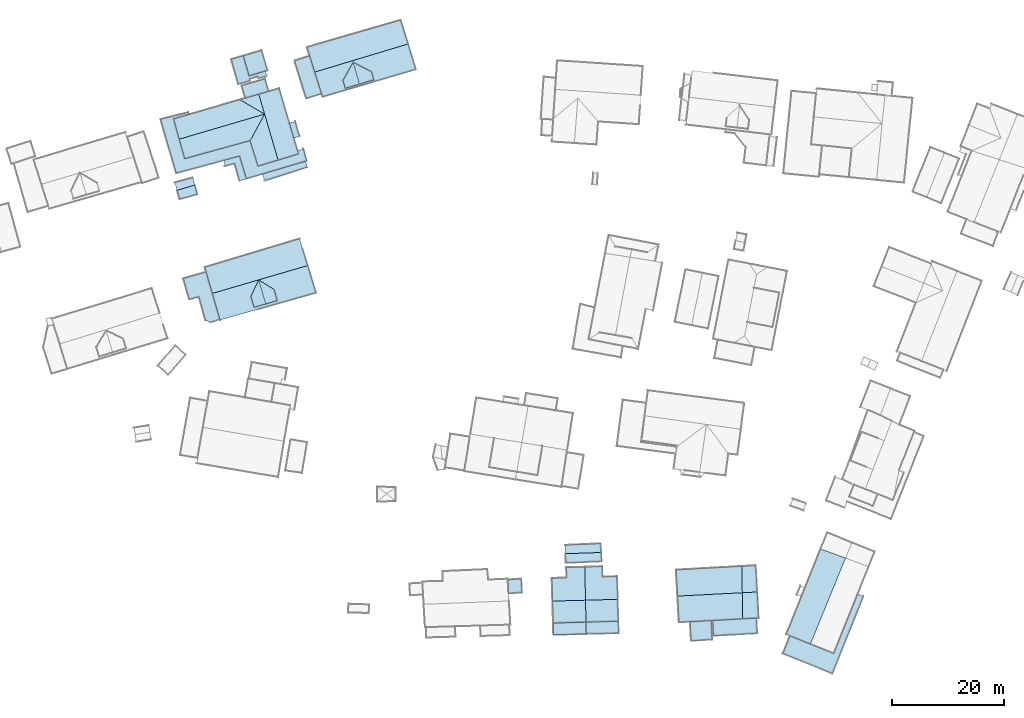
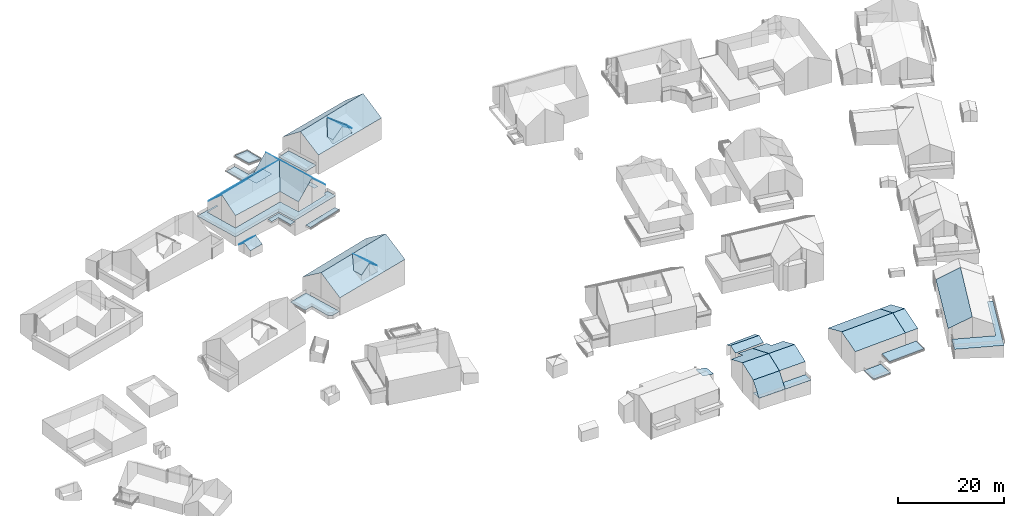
# Not in any storey, part 53 of 57: 86 roofs.
"""IFC4 building model written with IfcOpenShell, lengths in metres."""

from ifc_helpers import new_model, entity, si_unit, converted_unit, frame, origin, place, context, subcontext, project, spatial, face_set, surface_model, element, save


model = new_model("IFC4")

# Units and contexts
model_context = context("Model", 3, precision=1e-05, world=origin())
body_context = subcontext(model_context, "Body", "Model", "MODEL_VIEW")
ifc_project = project(units=[converted_unit("PLANEANGLEUNIT", "DEGREE", entity("IfcRatioMeasure", 0.0174532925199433), si_unit("PLANEANGLEUNIT", "RADIAN"), dimensions=[0, 0, 0, 0, 0, 0, 0]), si_unit("AREAUNIT", "SQUARE_METRE"), si_unit("LENGTHUNIT", "METRE")], contexts=[model_context])

# Site, building
site_placement = place(None, origin())
site = spatial("IfcSite", under=ifc_project, at=site_placement, Name="_site")
building_1_placement = place(site_placement, origin())
building_1 = spatial("IfcBuilding", under=site, at=building_1_placement, Name="_building")

# Roofs
roof_1_placement = place(building_1_placement, origin())
element("IfcRoof", 1, at=roof_1_placement, inside=building_1, Name="Roof", PredefinedType="NOTDEFINED", context=body_context, shape_type="SurfaceModel", body=[
    surface_model("IfcFaceBasedSurfaceModel", [(217.513, 63.715, 111.83), (217.379, 69.629, 109.47), (214.115, 69.536, 109.47), (214.162, 67.713, 110.22), (211.529, 67.635, 110.18), (211.654, 63.559, 111.83)], [face_set([[[0, 1, 2, 3, 4, 5]]])]),
])
roof_2_placement = place(building_1_placement, origin())
element("IfcRoof", 2, at=roof_2_placement, inside=building_1, Name="Roof", PredefinedType="NOTDEFINED", context=body_context, shape_type="SurfaceModel", body=[
    surface_model("IfcFaceBasedSurfaceModel", [(211.654, 63.559, 111.83), (211.762, 59.644, 110.18), (217.602, 59.81, 110.18), (217.513, 63.715, 111.83)], [face_set([[[0, 1, 2, 3]]])]),
])
roof_3_placement = place(building_1_placement, origin())
element("IfcRoof", 3, at=roof_3_placement, inside=building_1, Name="Roof", PredefinedType="NOTDEFINED", context=body_context, shape_type="SurfaceModel", body=[
    surface_model("IfcFaceBasedSurfaceModel", [(217.513, 63.715, 111.83), (217.379, 69.629, 109.47), (214.115, 69.536, 109.47), (214.162, 67.713, 110.22), (211.529, 67.635, 110.18), (211.654, 63.559, 111.83)], [face_set([[[0, 1, 2, 3, 4, 5]]])]),
])
roof_4_placement = place(building_1_placement, origin())
element("IfcRoof", 4, at=roof_4_placement, inside=building_1, Name="Roof", PredefinedType="NOTDEFINED", context=body_context, shape_type="SurfaceModel", body=[
    surface_model("IfcFaceBasedSurfaceModel", [(211.654, 63.559, 111.83), (211.762, 59.644, 110.18), (217.602, 59.81, 110.18), (217.513, 63.715, 111.83)], [face_set([[[0, 1, 2, 3]]])]),
])
roof_5_placement = place(building_1_placement, origin())
element("IfcRoof", 5, at=roof_5_placement, inside=building_1, Name="Roof", PredefinedType="NOTDEFINED", context=body_context, shape_type="SurfaceModel", body=[
    surface_model("IfcFaceBasedSurfaceModel", [(211.762, 59.644, 110.18), (211.823, 57.552, 107.186), (217.65, 57.706, 107.17), (217.602, 59.81, 110.18)], [face_set([[[0, 1, 2, 3]]])]),
])
for number, where, name in (
    (6, (0.0, 0.0, 0.0), "Roof"),
    (7, (0.0, 0.0, 0.0), "Roof"),
):
    element("IfcRoof", number, at=place(building_1_placement, frame(where)), inside=building_1, Name=name, PredefinedType="NOTDEFINED", context=body_context, shape_type="SurfaceModel", body=[
        surface_model("IfcFaceBasedSurfaceModel", [(217.65, 57.706, 107.22), (217.602, 59.81, 107.22), (211.762, 59.644, 107.22), (211.823, 57.552, 107.22)], [face_set([[[0, 1, 2, 3]]])]),
    ])
roof_6_placement = place(building_1_placement, origin())
element("IfcRoof", 8, at=roof_6_placement, inside=building_1, Name="Roof", PredefinedType="NOTDEFINED", context=body_context, shape_type="SurfaceModel", body=[
    surface_model("IfcFaceBasedSurfaceModel", [(211.762, 59.644, 110.18), (211.823, 57.552, 107.186), (217.65, 57.706, 107.17), (217.602, 59.81, 110.18)], [face_set([[[0, 1, 2, 3]]])]),
])

# Building
building_2_placement = place(site_placement, origin())
building_2 = spatial("IfcBuilding", under=site, at=building_2_placement, Name="_building")

# Roofs
roof_7_placement = place(building_2_placement, origin())
element("IfcRoof", 9, at=roof_7_placement, inside=building_2, Name="Roof", PredefinedType="NOTDEFINED", context=body_context, shape_type="SurfaceModel", body=[
    surface_model("IfcFaceBasedSurfaceModel", [(168.113, 123.235, 120.71), (166.664, 128.012, 117.28), (149.794, 122.923, 117.33), (151.147, 118.279, 120.64), (159.38, 120.687, 120.674)], [face_set([[[0, 1, 2, 3, 4]]])]),
])
roof_8_placement = place(building_2_placement, origin())
element("IfcRoof", 10, at=roof_8_placement, inside=building_2, Name="Roof", PredefinedType="NOTDEFINED", context=body_context, shape_type="SurfaceModel", body=[
    surface_model("IfcFaceBasedSurfaceModel", [(159.38, 120.687, 120.674), (157.999, 117.768, 119.0), (158.583, 115.793, 119.0), (160.648, 116.395, 120.67)], [face_set([[[0, 1, 2, 3]]])]),
])
roof_9_placement = place(building_2_placement, origin())
element("IfcRoof", 11, at=roof_9_placement, inside=building_2, Name="Roof", PredefinedType="NOTDEFINED", context=body_context, shape_type="SurfaceModel", body=[
    surface_model("IfcFaceBasedSurfaceModel", [(159.38, 120.687, 120.674), (160.648, 116.395, 120.67), (162.704, 116.998, 119.01), (162.129, 118.973, 119.014)], [face_set([[[0, 1, 2, 3]]])]),
])
roof_10_placement = place(building_2_placement, origin())
element("IfcRoof", 12, at=roof_10_placement, inside=building_2, Name="Roof", PredefinedType="NOTDEFINED", context=body_context, shape_type="SurfaceModel", body=[
    surface_model("IfcFaceBasedSurfaceModel", [(159.38, 120.687, 120.674), (151.147, 118.279, 120.64), (152.527, 113.543, 117.24), (169.581, 118.397, 117.21), (168.113, 123.235, 120.71)], [face_set([[[0, 1, 2, 3, 4]]])]),
])
roof_11_placement = place(building_2_placement, origin())
element("IfcRoof", 13, at=roof_11_placement, inside=building_2, Name="Roof", PredefinedType="NOTDEFINED", context=body_context, shape_type="SurfaceModel", body=[
    surface_model("IfcFaceBasedSurfaceModel", [(168.113, 123.235, 120.71), (166.664, 128.012, 117.28), (149.794, 122.923, 117.33), (151.147, 118.279, 120.64), (159.38, 120.687, 120.674)], [face_set([[[0, 1, 2, 3, 4]]])]),
])
roof_12_placement = place(building_2_placement, origin())
element("IfcRoof", 14, at=roof_12_placement, inside=building_2, Name="Roof", PredefinedType="NOTDEFINED", context=body_context, shape_type="SurfaceModel", body=[
    surface_model("IfcFaceBasedSurfaceModel", [(159.38, 120.687, 120.674), (160.648, 116.395, 120.67), (162.704, 116.998, 119.01), (162.129, 118.973, 119.014)], [face_set([[[0, 1, 2, 3]]])]),
])
roof_13_placement = place(building_2_placement, origin())
element("IfcRoof", 15, at=roof_13_placement, inside=building_2, Name="Roof", PredefinedType="NOTDEFINED", context=body_context, shape_type="SurfaceModel", body=[
    surface_model("IfcFaceBasedSurfaceModel", [(159.38, 120.687, 120.674), (157.999, 117.768, 119.0), (158.583, 115.793, 119.0), (160.648, 116.395, 120.67)], [face_set([[[0, 1, 2, 3]]])]),
])
roof_14_placement = place(building_2_placement, origin())
element("IfcRoof", 16, at=roof_14_placement, inside=building_2, Name="Roof", PredefinedType="NOTDEFINED", context=body_context, shape_type="SurfaceModel", body=[
    surface_model("IfcFaceBasedSurfaceModel", [(160.648, 116.395, 117.584), (162.704, 116.998, 117.593), (162.129, 118.973, 119.013), (159.38, 120.687, 120.673), (157.999, 117.768, 118.999), (158.583, 115.793, 117.577)], [face_set([[[0, 1, 2, 3, 4, 5]]])]),
])
for number, where, name in (
    (17, (0.0, 0.0, 0.0), "Roof"),
    (18, (0.0, 0.0, 0.0), "Roof"),
):
    element("IfcRoof", number, at=place(building_2_placement, frame(where)), inside=building_2, Name=name, PredefinedType="NOTDEFINED", context=body_context, shape_type="SurfaceModel", body=[
        surface_model("IfcFaceBasedSurfaceModel", [(152.489, 113.665, 114.06), (150.035, 122.097, 114.06), (145.975, 120.931, 114.06), (147.059, 117.204, 114.06), (148.781, 117.684, 114.06), (149.915, 113.545, 114.06), (150.765, 113.115, 114.06)], [face_set([[[0, 1, 2, 3, 4, 5, 6]]])]),
    ])
roof_15_placement = place(building_2_placement, origin())
element("IfcRoof", 19, at=roof_15_placement, inside=building_2, Name="Roof", PredefinedType="NOTDEFINED", context=body_context, shape_type="SurfaceModel", body=[
    surface_model("IfcFaceBasedSurfaceModel", [(159.38, 120.687, 120.674), (151.147, 118.279, 120.64), (152.527, 113.543, 117.24), (169.581, 118.397, 117.21), (168.113, 123.235, 120.71)], [face_set([[[0, 1, 2, 3, 4]]])]),
])

# Building
building_3_placement = place(site_placement, origin())
building_3 = spatial("IfcBuilding", under=site, at=building_3_placement, Name="_building")

# Roofs
roof_16_placement = place(building_3_placement, origin())
element("IfcRoof", 20, at=roof_16_placement, inside=building_3, Name="Roof", PredefinedType="NOTDEFINED", context=body_context, shape_type="SurfaceModel", body=[
    surface_model("IfcFaceBasedSurfaceModel", [(253.875, 57.367, 106.24), (252.611, 54.225, 106.24), (261.413, 50.677, 106.24), (266.937, 64.396, 106.24), (265.906, 64.801, 106.24), (261.656, 54.234, 106.24), (257.513, 55.902, 106.24)], [face_set([[[0, 1, 2, 3, 4, 5, 6]]])]),
])
for number, where, name in (
    (21, (0.0, 0.0, 0.0), "Roof"),
    (22, (0.0, 0.0, 0.0), "Roof"),
):
    element("IfcRoof", number, at=place(building_3_placement, frame(where)), inside=building_3, Name=name, PredefinedType="NOTDEFINED", context=body_context, shape_type="SurfaceModel", body=[
        surface_model("IfcFaceBasedSurfaceModel", [(263.756, 71.207, 111.04), (259.33, 72.84, 108.76), (253.21, 57.623, 108.76), (253.875, 57.367, 109.11), (257.513, 55.902, 111.04)], [face_set([[[0, 1, 2, 3, 4]]])]),
    ])
roof_17_placement = place(building_3_placement, origin())
element("IfcRoof", 23, at=roof_17_placement, inside=building_3, Name="Roof", PredefinedType="NOTDEFINED", context=body_context, shape_type="SurfaceModel", body=[
    surface_model("IfcFaceBasedSurfaceModel", [(253.875, 57.367, 106.24), (252.611, 54.225, 106.24), (261.413, 50.677, 106.24), (266.937, 64.396, 106.24), (265.906, 64.801, 106.24), (261.656, 54.234, 106.24), (257.513, 55.902, 106.24)], [face_set([[[0, 1, 2, 3, 4, 5, 6]]])]),
])

# Building
building_4_placement = place(site_placement, origin())
building_4 = spatial("IfcBuilding", under=site, at=building_4_placement, Name="_building")

# Roofs
for number, where, name in (
    (24, (0.0, 0.0, 0.0), "Roof"),
    (25, (0.0, 0.0, 0.0), "Roof"),
):
    element("IfcRoof", number, at=place(building_4_placement, frame(where)), inside=building_4, Name=name, PredefinedType="NOTDEFINED", context=body_context, shape_type="SurfaceModel", body=[
        surface_model("IfcFaceBasedSurfaceModel", [(240.15, 60.1, 106.04), (240.307, 57.395, 105.77), (248.052, 57.824, 105.78), (247.905, 60.529, 106.0)], [face_set([[[0, 1, 2, 3]]])]),
    ])

# Building
building_5_placement = place(site_placement, origin())
building_5 = spatial("IfcBuilding", under=site, at=building_5_placement, Name="_building")

# Roofs
for number, where, name in (
    (26, (0.0, 0.0, 0.0), "Roof"),
    (27, (0.0, 0.0, 0.0), "Roof"),
):
    element("IfcRoof", number, at=place(building_5_placement, frame(where)), inside=building_5, Name=name, PredefinedType="NOTDEFINED", context=body_context, shape_type="SurfaceModel", body=[
        surface_model("IfcFaceBasedSurfaceModel", [(153.191, 141.936, 117.923), (153.387, 140.91, 117.923), (155.129, 141.38, 117.923), (155.998, 138.288, 117.923), (157.217, 138.67, 117.923), (155.991, 142.701, 117.923)], [face_set([[[0, 1, 2, 3, 4, 5]]])]),
    ])
for number, where, name in (
    (28, (0.0, 0.0, 0.0), "Roof"),
    (29, (0.0, 0.0, 0.0), "Roof"),
):
    element("IfcRoof", number, at=place(building_5_placement, frame(where)), inside=building_5, Name=name, PredefinedType="NOTDEFINED", context=body_context, shape_type="SurfaceModel", body=[
        surface_model("IfcFaceBasedSurfaceModel", [(157.217, 138.67, 118.198), (167.948, 141.84, 118.257), (167.348, 143.976, 118.257), (166.311, 143.631, 118.257), (166.476, 143.076, 118.249), (162.848, 141.98, 118.198), (159.281, 140.902, 118.198), (157.866, 145.438, 118.198), (146.244, 142.228, 118.198), (145.265, 145.713, 118.198), (144.258, 149.309, 118.198), (147.0, 150.104, 118.198), (146.887, 150.468, 118.198), (141.935, 149.254, 118.198), (144.742, 139.642, 118.198), (155.991, 142.701, 118.198)], [face_set([[[0, 1, 2, 3, 4, 5, 6, 7, 8, 9, 10, 11, 12, 13, 14, 15]]])]),
    ])

# Building
building_6_placement = place(site_placement, origin())
building_6 = spatial("IfcBuilding", under=site, at=building_6_placement, Name="_building")

# Roofs
roof_18_placement = place(building_6_placement, origin())
element("IfcRoof", 30, at=roof_18_placement, inside=building_6, Name="Roof", PredefinedType="NOTDEFINED", context=body_context, shape_type="SurfaceModel", body=[
    surface_model("IfcFaceBasedSurfaceModel", [(220.301, 72.202, 109.9), (220.228, 73.795, 109.18), (213.898, 73.513, 109.1), (213.962, 71.991, 109.9)], [face_set([[[0, 1, 2, 3]]])]),
])
roof_19_placement = place(building_6_placement, origin())
element("IfcRoof", 31, at=roof_19_placement, inside=building_6, Name="Roof", PredefinedType="NOTDEFINED", context=body_context, shape_type="SurfaceModel", body=[
    surface_model("IfcFaceBasedSurfaceModel", [(213.962, 71.991, 109.9), (214.034, 70.338, 109.1), (220.374, 70.62, 109.18), (220.301, 72.202, 109.9)], [face_set([[[0, 1, 2, 3]]])]),
])
roof_20_placement = place(building_6_placement, origin())
element("IfcRoof", 32, at=roof_20_placement, inside=building_6, Name="Roof", PredefinedType="NOTDEFINED", context=body_context, shape_type="SurfaceModel", body=[
    surface_model("IfcFaceBasedSurfaceModel", [(220.301, 72.202, 109.9), (220.228, 73.795, 109.18), (213.898, 73.513, 109.1), (213.962, 71.991, 109.9)], [face_set([[[0, 1, 2, 3]]])]),
])
roof_21_placement = place(building_6_placement, origin())
element("IfcRoof", 33, at=roof_21_placement, inside=building_6, Name="Roof", PredefinedType="NOTDEFINED", context=body_context, shape_type="SurfaceModel", body=[
    surface_model("IfcFaceBasedSurfaceModel", [(213.962, 71.991, 109.9), (214.034, 70.338, 109.1), (220.374, 70.62, 109.18), (220.301, 72.202, 109.9)], [face_set([[[0, 1, 2, 3]]])]),
])

# Building
building_7_placement = place(site_placement, origin())
building_7 = spatial("IfcBuilding", under=site, at=building_7_placement, Name="_building")

# Roofs
roof_22_placement = place(building_7_placement, origin())
element("IfcRoof", 34, at=roof_22_placement, inside=building_7, Name="Roof", PredefinedType="NOTDEFINED", context=body_context, shape_type="SurfaceModel", body=[
    surface_model("IfcFaceBasedSurfaceModel", [(248.054, 65.179, 110.65), (247.794, 69.898, 108.77), (245.299, 69.756, 108.77), (245.391, 65.042, 110.65)], [face_set([[[0, 1, 2, 3]]])]),
])
roof_23_placement = place(building_7_placement, origin())
element("IfcRoof", 35, at=roof_23_placement, inside=building_7, Name="Roof", PredefinedType="NOTDEFINED", context=body_context, shape_type="SurfaceModel", body=[
    surface_model("IfcFaceBasedSurfaceModel", [(248.054, 65.179, 110.65), (245.391, 65.042, 110.65), (245.481, 60.396, 108.78), (248.306, 60.55, 108.77)], [face_set([[[0, 1, 2, 3]]])]),
])
roof_24_placement = place(building_7_placement, origin())
element("IfcRoof", 36, at=roof_24_placement, inside=building_7, Name="Roof", PredefinedType="NOTDEFINED", context=body_context, shape_type="SurfaceModel", body=[
    surface_model("IfcFaceBasedSurfaceModel", [(248.054, 65.179, 110.65), (247.794, 69.898, 108.77), (245.299, 69.756, 108.77), (245.391, 65.042, 110.65)], [face_set([[[0, 1, 2, 3]]])]),
])
roof_25_placement = place(building_7_placement, origin())
element("IfcRoof", 37, at=roof_25_placement, inside=building_7, Name="Roof", PredefinedType="NOTDEFINED", context=body_context, shape_type="SurfaceModel", body=[
    surface_model("IfcFaceBasedSurfaceModel", [(248.054, 65.179, 110.65), (245.391, 65.042, 110.65), (245.481, 60.396, 108.78), (248.306, 60.55, 108.77)], [face_set([[[0, 1, 2, 3]]])]),
])

# Building
building_8_placement = place(site_placement, origin())
building_8 = spatial("IfcBuilding", under=site, at=building_8_placement, Name="_building")

# Roofs
roof_26_placement = place(building_8_placement, origin())
element("IfcRoof", 38, at=roof_26_placement, inside=building_8, Name="Roof", PredefinedType="NOTDEFINED", context=body_context, shape_type="SurfaceModel", body=[
    surface_model("IfcFaceBasedSurfaceModel", [(162.848, 141.98, 124.06), (166.476, 143.076, 120.53), (166.311, 143.631, 120.53), (165.642, 145.907, 120.53), (164.844, 148.577, 120.52), (163.027, 154.733, 120.51), (159.41, 153.697, 124.08), (160.438, 150.171, 124.074)], [face_set([[[0, 1, 2, 3, 4, 5, 6, 7]]])]),
])
roof_27_placement = place(building_8_placement, origin())
element("IfcRoof", 39, at=roof_27_placement, inside=building_8, Name="Roof", PredefinedType="NOTDEFINED", context=body_context, shape_type="SurfaceModel", body=[
    surface_model("IfcFaceBasedSurfaceModel", [(160.438, 150.171, 124.074), (159.41, 153.697, 124.08), (156.055, 152.725, 120.64)], [face_set([[[0, 1, 2]]])]),
])
roof_28_placement = place(building_8_placement, origin())
element("IfcRoof", 40, at=roof_28_placement, inside=building_8, Name="Roof", PredefinedType="NOTDEFINED", context=body_context, shape_type="SurfaceModel", body=[
    surface_model("IfcFaceBasedSurfaceModel", [(156.055, 152.725, 120.64), (147.0, 150.104, 120.732), (144.258, 149.309, 120.76), (145.265, 145.713, 124.08), (160.438, 150.171, 124.08)], [face_set([[[0, 1, 2, 3, 4]]])]),
])
roof_29_placement = place(building_8_placement, origin())
element("IfcRoof", 41, at=roof_29_placement, inside=building_8, Name="Roof", PredefinedType="NOTDEFINED", context=body_context, shape_type="SurfaceModel", body=[
    surface_model("IfcFaceBasedSurfaceModel", [(145.265, 145.713, 124.08), (146.244, 142.228, 121.03), (157.866, 145.438, 120.59), (160.438, 150.171, 124.08)], [face_set([[[0, 1, 2, 3]]])]),
])
roof_30_placement = place(building_8_placement, origin())
element("IfcRoof", 42, at=roof_30_placement, inside=building_8, Name="Roof", PredefinedType="NOTDEFINED", context=body_context, shape_type="SurfaceModel", body=[
    surface_model("IfcFaceBasedSurfaceModel", [(160.438, 150.171, 124.074), (157.866, 145.438, 120.59), (159.281, 140.902, 120.44), (162.848, 141.98, 124.06)], [face_set([[[0, 1, 2, 3]]])]),
])
roof_31_placement = place(building_8_placement, origin())
element("IfcRoof", 43, at=roof_31_placement, inside=building_8, Name="Roof", PredefinedType="NOTDEFINED", context=body_context, shape_type="SurfaceModel", body=[
    surface_model("IfcFaceBasedSurfaceModel", [(164.844, 148.577, 118.31), (165.642, 145.907, 118.3), (166.659, 146.203, 118.24), (165.872, 148.883, 118.24)], [face_set([[[0, 1, 2, 3]]])]),
])
roof_32_placement = place(building_8_placement, origin())
element("IfcRoof", 44, at=roof_32_placement, inside=building_8, Name="Roof", PredefinedType="NOTDEFINED", context=body_context, shape_type="SurfaceModel", body=[
    surface_model("IfcFaceBasedSurfaceModel", [(162.848, 141.98, 124.06), (166.476, 143.076, 120.53), (166.311, 143.631, 120.53), (165.642, 145.907, 120.53), (164.844, 148.577, 120.52), (163.027, 154.733, 120.51), (159.41, 153.697, 124.08), (160.438, 150.171, 124.074)], [face_set([[[0, 1, 2, 3, 4, 5, 6, 7]]])]),
])
roof_33_placement = place(building_8_placement, origin())
element("IfcRoof", 45, at=roof_33_placement, inside=building_8, Name="Roof", PredefinedType="NOTDEFINED", context=body_context, shape_type="SurfaceModel", body=[
    surface_model("IfcFaceBasedSurfaceModel", [(160.438, 150.171, 124.074), (159.41, 153.697, 124.08), (156.055, 152.725, 120.64)], [face_set([[[0, 1, 2]]])]),
])
roof_34_placement = place(building_8_placement, origin())
element("IfcRoof", 46, at=roof_34_placement, inside=building_8, Name="Roof", PredefinedType="NOTDEFINED", context=body_context, shape_type="SurfaceModel", body=[
    surface_model("IfcFaceBasedSurfaceModel", [(156.055, 152.725, 120.64), (147.0, 150.104, 120.732), (144.258, 149.309, 120.76), (145.265, 145.713, 124.08), (160.438, 150.171, 124.08)], [face_set([[[0, 1, 2, 3, 4]]])]),
])
roof_35_placement = place(building_8_placement, origin())
element("IfcRoof", 47, at=roof_35_placement, inside=building_8, Name="Roof", PredefinedType="NOTDEFINED", context=body_context, shape_type="SurfaceModel", body=[
    surface_model("IfcFaceBasedSurfaceModel", [(160.438, 150.171, 124.074), (157.866, 145.438, 120.59), (159.281, 140.902, 120.44), (162.848, 141.98, 124.06)], [face_set([[[0, 1, 2, 3]]])]),
])
roof_36_placement = place(building_8_placement, origin())
element("IfcRoof", 48, at=roof_36_placement, inside=building_8, Name="Roof", PredefinedType="NOTDEFINED", context=body_context, shape_type="SurfaceModel", body=[
    surface_model("IfcFaceBasedSurfaceModel", [(145.265, 145.713, 124.08), (146.244, 142.228, 121.03), (157.866, 145.438, 120.59), (160.438, 150.171, 124.08)], [face_set([[[0, 1, 2, 3]]])]),
])
for number, where, name in (
    (49, (0.0, 0.0, 0.0), "Roof"),
    (50, (0.0, 0.0, 0.0), "Roof"),
):
    element("IfcRoof", number, at=place(building_8_placement, frame(where)), inside=building_8, Name=name, PredefinedType="NOTDEFINED", context=body_context, shape_type="SurfaceModel", body=[
        surface_model("IfcFaceBasedSurfaceModel", [(157.013, 153.003, 118.17), (161.163, 154.207, 118.17), (160.515, 156.433, 118.17), (156.364, 155.229, 118.17)], [face_set([[[0, 1, 2, 3]]])]),
    ])
roof_37_placement = place(building_8_placement, origin())
element("IfcRoof", 51, at=roof_37_placement, inside=building_8, Name="Roof", PredefinedType="NOTDEFINED", context=body_context, shape_type="SurfaceModel", body=[
    surface_model("IfcFaceBasedSurfaceModel", [(164.844, 148.577, 118.31), (165.642, 145.907, 118.3), (166.659, 146.203, 118.24), (165.872, 148.883, 118.24)], [face_set([[[0, 1, 2, 3]]])]),
])

# Building
building_9_placement = place(site_placement, origin())
building_9 = spatial("IfcBuilding", under=site, at=building_9_placement, Name="_building")

# Roofs
roof_38_placement = place(building_9_placement, origin())
element("IfcRoof", 52, at=roof_38_placement, inside=building_9, Name="Roof", PredefinedType="NOTDEFINED", context=body_context, shape_type="SurfaceModel", body=[
    surface_model("IfcFaceBasedSurfaceModel", [(144.871, 136.607, 118.63), (145.345, 135.025, 117.57), (148.477, 135.892, 117.53), (148.035, 137.544, 118.63)], [face_set([[[0, 1, 2, 3]]])]),
])
roof_39_placement = place(building_9_placement, origin())
element("IfcRoof", 53, at=roof_39_placement, inside=building_9, Name="Roof", PredefinedType="NOTDEFINED", context=body_context, shape_type="SurfaceModel", body=[
    surface_model("IfcFaceBasedSurfaceModel", [(148.035, 137.544, 118.63), (147.676, 138.873, 117.46), (144.464, 137.997, 117.49), (144.871, 136.607, 118.63)], [face_set([[[0, 1, 2, 3]]])]),
])
roof_40_placement = place(building_9_placement, origin())
element("IfcRoof", 54, at=roof_40_placement, inside=building_9, Name="Roof", PredefinedType="NOTDEFINED", context=body_context, shape_type="SurfaceModel", body=[
    surface_model("IfcFaceBasedSurfaceModel", [(144.871, 136.607, 118.63), (145.345, 135.025, 117.57), (148.477, 135.892, 117.53), (148.035, 137.544, 118.63)], [face_set([[[0, 1, 2, 3]]])]),
])
roof_41_placement = place(building_9_placement, origin())
element("IfcRoof", 55, at=roof_41_placement, inside=building_9, Name="Roof", PredefinedType="NOTDEFINED", context=body_context, shape_type="SurfaceModel", body=[
    surface_model("IfcFaceBasedSurfaceModel", [(148.035, 137.544, 118.63), (147.676, 138.873, 117.46), (144.464, 137.997, 117.49), (144.871, 136.607, 118.63)], [face_set([[[0, 1, 2, 3]]])]),
])

# Building
building_10_placement = place(site_placement, origin())
building_10 = spatial("IfcBuilding", under=site, at=building_10_placement, Name="_building")

# Roofs
roof_42_placement = place(building_10_placement, origin())
element("IfcRoof", 56, at=roof_42_placement, inside=building_10, Name="Roof", PredefinedType="NOTDEFINED", context=body_context, shape_type="SurfaceModel", body=[
    surface_model("IfcFaceBasedSurfaceModel", [(185.956, 162.642, 122.98), (184.645, 166.905, 119.31), (167.981, 162.062, 119.56), (169.369, 157.647, 123.0)], [face_set([[[0, 1, 2, 3]]])]),
])
roof_43_placement = place(building_10_placement, origin())
element("IfcRoof", 57, at=roof_43_placement, inside=building_10, Name="Roof", PredefinedType="NOTDEFINED", context=body_context, shape_type="SurfaceModel", body=[
    surface_model("IfcFaceBasedSurfaceModel", [(174.377, 156.139, 120.957), (174.794, 154.738, 120.96), (177.323, 155.5, 122.77), (176.183, 159.368, 122.772)], [face_set([[[0, 1, 2, 3]]])]),
])
roof_44_placement = place(building_10_placement, origin())
element("IfcRoof", 58, at=roof_44_placement, inside=building_10, Name="Roof", PredefinedType="NOTDEFINED", context=body_context, shape_type="SurfaceModel", body=[
    surface_model("IfcFaceBasedSurfaceModel", [(169.369, 157.647, 123.0), (170.747, 153.242, 119.77), (187.351, 158.117, 119.57), (185.956, 162.642, 122.98)], [face_set([[[0, 1, 2, 3]]])]),
])
roof_45_placement = place(building_10_placement, origin())
element("IfcRoof", 59, at=roof_45_placement, inside=building_10, Name="Roof", PredefinedType="NOTDEFINED", context=body_context, shape_type="SurfaceModel", body=[
    surface_model("IfcFaceBasedSurfaceModel", [(185.956, 162.642, 122.98), (184.645, 166.905, 119.31), (167.981, 162.062, 119.56), (169.369, 157.647, 123.0)], [face_set([[[0, 1, 2, 3]]])]),
])
roof_46_placement = place(building_10_placement, origin())
element("IfcRoof", 60, at=roof_46_placement, inside=building_10, Name="Roof", PredefinedType="NOTDEFINED", context=body_context, shape_type="SurfaceModel", body=[
    surface_model("IfcFaceBasedSurfaceModel", [(169.369, 157.647, 123.0), (170.747, 153.242, 119.77), (187.351, 158.117, 119.57), (185.956, 162.642, 122.98)], [face_set([[[0, 1, 2, 3]]])]),
])
roof_47_placement = place(building_10_placement, origin())
element("IfcRoof", 61, at=roof_47_placement, inside=building_10, Name="Roof", PredefinedType="NOTDEFINED", context=body_context, shape_type="SurfaceModel", body=[
    surface_model("IfcFaceBasedSurfaceModel", [(174.377, 156.139, 120.957), (174.794, 154.738, 120.96), (177.323, 155.5, 122.77), (176.183, 159.368, 122.772)], [face_set([[[0, 1, 2, 3]]])]),
])
roof_48_placement = place(building_10_placement, origin())
element("IfcRoof", 62, at=roof_48_placement, inside=building_10, Name="Roof", PredefinedType="NOTDEFINED", context=body_context, shape_type="SurfaceModel", body=[
    surface_model("IfcFaceBasedSurfaceModel", [(177.323, 155.5, 122.77), (179.863, 156.271, 120.94), (179.456, 157.671, 120.944), (176.183, 159.368, 122.772)], [face_set([[[0, 1, 2, 3]]])]),
])
roof_49_placement = place(building_10_placement, origin())
element("IfcRoof", 63, at=roof_49_placement, inside=building_10, Name="Roof", PredefinedType="NOTDEFINED", context=body_context, shape_type="SurfaceModel", body=[
    surface_model("IfcFaceBasedSurfaceModel", [(176.183, 159.368, 122.773), (174.377, 156.139, 120.949), (174.794, 154.738, 119.909), (177.323, 155.5, 119.905), (179.863, 156.271, 119.904), (179.456, 157.671, 120.941)], [face_set([[[0, 1, 2, 3, 4, 5]]])]),
])
for number, where, name in (
    (64, (0.0, 0.0, 0.0), "Roof"),
    (65, (0.0, 0.0, 0.0), "Roof"),
):
    element("IfcRoof", number, at=place(building_10_placement, frame(where)), inside=building_10, Name=name, PredefinedType="NOTDEFINED", context=body_context, shape_type="SurfaceModel", body=[
        surface_model("IfcFaceBasedSurfaceModel", [(167.868, 152.949, 117.155), (170.569, 153.797, 117.155), (168.465, 160.52, 117.155), (165.764, 159.672, 117.155)], [face_set([[[0, 1, 2, 3]]])]),
    ])
roof_50_placement = place(building_10_placement, origin())
element("IfcRoof", 66, at=roof_50_placement, inside=building_10, Name="Roof", PredefinedType="NOTDEFINED", context=body_context, shape_type="SurfaceModel", body=[
    surface_model("IfcFaceBasedSurfaceModel", [(177.323, 155.5, 122.77), (179.863, 156.271, 120.94), (179.456, 157.671, 120.944), (176.183, 159.368, 122.772)], [face_set([[[0, 1, 2, 3]]])]),
])

# Building
building_11_placement = place(site_placement, origin())
building_11 = spatial("IfcBuilding", under=site, at=building_11_placement, Name="_building")

# Roofs
for number, where, name in (
    (67, (0.0, 0.0, 0.0), "Roof"),
    (68, (0.0, 0.0, 0.0), "Roof"),
):
    element("IfcRoof", number, at=place(building_11_placement, frame(where)), inside=building_11, Name=name, PredefinedType="NOTDEFINED", context=body_context, shape_type="SurfaceModel", body=[
        surface_model("IfcFaceBasedSurfaceModel", [(160.96, 157.934, 119.51), (159.923, 161.49, 119.62), (156.659, 160.536, 120.16), (157.696, 156.98, 120.18)], [face_set([[[0, 1, 2, 3]]])]),
    ])
for number, where, name in (
    (69, (0.0, 0.0, 0.0), "Roof"),
    (70, (0.0, 0.0, 0.0), "Roof"),
):
    element("IfcRoof", number, at=place(building_11_placement, frame(where)), inside=building_11, Name=name, PredefinedType="NOTDEFINED", context=body_context, shape_type="SurfaceModel", body=[
        surface_model("IfcFaceBasedSurfaceModel", [(157.906, 156.104, 117.65), (157.814, 156.446, 117.65), (159.244, 156.863, 117.65), (159.346, 156.521, 117.65), (160.837, 156.956, 117.65), (160.588, 157.823, 117.65), (157.696, 156.98, 117.65), (156.659, 160.536, 117.65), (154.503, 159.916, 117.65), (155.78, 155.493, 117.65)], [face_set([[[0, 1, 2, 3, 4, 5, 6, 7, 8, 9]]])]),
    ])

# Building
building_12_placement = place(site_placement, origin())
building_12 = spatial("IfcBuilding", under=site, at=building_12_placement, Name="_building")

# Roofs
roof_51_placement = place(building_12_placement, origin())
element("IfcRoof", 71, at=roof_51_placement, inside=building_12, Name="Roof", PredefinedType="NOTDEFINED", context=body_context, shape_type="SurfaceModel", body=[
    surface_model("IfcFaceBasedSurfaceModel", [(217.602, 59.81, 107.17), (217.65, 57.706, 107.17), (223.408, 57.861, 107.17), (223.357, 59.973, 107.17)], [face_set([[[0, 1, 2, 3]]])]),
])
roof_52_placement = place(building_12_placement, origin())
element("IfcRoof", 72, at=roof_52_placement, inside=building_12, Name="Roof", PredefinedType="NOTDEFINED", context=body_context, shape_type="SurfaceModel", body=[
    surface_model("IfcFaceBasedSurfaceModel", [(223.248, 63.868, 111.83), (217.513, 63.715, 111.83), (217.602, 59.81, 110.18), (223.357, 59.973, 110.18)], [face_set([[[0, 1, 2, 3]]])]),
])
roof_53_placement = place(building_12_placement, origin())
element("IfcRoof", 73, at=roof_53_placement, inside=building_12, Name="Roof", PredefinedType="NOTDEFINED", context=body_context, shape_type="SurfaceModel", body=[
    surface_model("IfcFaceBasedSurfaceModel", [(217.379, 69.629, 109.47), (217.513, 63.715, 111.83), (223.248, 63.868, 111.83), (223.123, 67.944, 110.14), (220.54, 67.874, 110.14), (220.493, 69.716, 109.47)], [face_set([[[0, 1, 2, 3, 4, 5]]])]),
])
roof_54_placement = place(building_12_placement, origin())
element("IfcRoof", 74, at=roof_54_placement, inside=building_12, Name="Roof", PredefinedType="NOTDEFINED", context=body_context, shape_type="SurfaceModel", body=[
    surface_model("IfcFaceBasedSurfaceModel", [(217.602, 59.81, 107.17), (217.65, 57.706, 107.17), (223.408, 57.861, 107.17), (223.357, 59.973, 107.17)], [face_set([[[0, 1, 2, 3]]])]),
])
roof_55_placement = place(building_12_placement, origin())
element("IfcRoof", 75, at=roof_55_placement, inside=building_12, Name="Roof", PredefinedType="NOTDEFINED", context=body_context, shape_type="SurfaceModel", body=[
    surface_model("IfcFaceBasedSurfaceModel", [(223.248, 63.868, 111.83), (217.513, 63.715, 111.83), (217.602, 59.81, 110.18), (223.357, 59.973, 110.18)], [face_set([[[0, 1, 2, 3]]])]),
])
roof_56_placement = place(building_12_placement, origin())
element("IfcRoof", 76, at=roof_56_placement, inside=building_12, Name="Roof", PredefinedType="NOTDEFINED", context=body_context, shape_type="SurfaceModel", body=[
    surface_model("IfcFaceBasedSurfaceModel", [(217.379, 69.629, 109.47), (217.513, 63.715, 111.83), (223.248, 63.868, 111.83), (223.123, 67.944, 110.14), (220.54, 67.874, 110.14), (220.493, 69.716, 109.47)], [face_set([[[0, 1, 2, 3, 4, 5]]])]),
])

# Building
building_13_placement = place(site_placement, origin())
building_13 = spatial("IfcBuilding", under=site, at=building_13_placement, Name="_building")

# Roofs
for number, where, name in (
    (77, (0.0, 0.0, 0.0), "Roof"),
    (78, (0.0, 0.0, 0.0), "Roof"),
):
    element("IfcRoof", number, at=place(building_13_placement, frame(where)), inside=building_13, Name=name, PredefinedType="NOTDEFINED", context=body_context, shape_type="SurfaceModel", body=[
        surface_model("IfcFaceBasedSurfaceModel", [(160.059, 139.514, 115.67), (160.431, 138.314, 115.67), (168.062, 140.737, 115.67), (167.717, 141.776, 115.67)], [face_set([[[0, 1, 2, 3]]])]),
    ])

# Building
building_14_placement = place(site_placement, origin())
building_14 = spatial("IfcBuilding", under=site, at=building_14_placement, Name="_building")

# Roofs
for number, where, name in (
    (79, (0.0, 0.0, 0.0), "Roof"),
    (80, (0.0, 0.0, 0.0), "Roof"),
):
    element("IfcRoof", number, at=place(building_14_placement, frame(where)), inside=building_14, Name=name, PredefinedType="NOTDEFINED", context=body_context, shape_type="SurfaceModel", body=[
        surface_model("IfcFaceBasedSurfaceModel", [(203.688, 67.358, 110.71), (203.84, 64.913, 110.65), (206.235, 65.057, 110.24), (206.083, 67.512, 110.24)], [face_set([[[0, 1, 2, 3]]])]),
    ])

# Building
building_15_placement = place(site_placement, origin())
building_15 = spatial("IfcBuilding", under=site, at=building_15_placement, Name="_building")

# Roofs
roof_57_placement = place(building_15_placement, origin())
element("IfcRoof", 81, at=roof_57_placement, inside=building_15, Name="Roof", PredefinedType="NOTDEFINED", context=body_context, shape_type="SurfaceModel", body=[
    surface_model("IfcFaceBasedSurfaceModel", [(245.391, 65.042, 110.65), (245.299, 69.756, 108.77), (241.091, 69.524, 108.77), (239.208, 69.429, 108.77), (233.627, 69.118, 108.77), (233.888, 64.45, 110.65)], [face_set([[[0, 1, 2, 3, 4, 5]]])]),
])
for number, where, name in (
    (82, (0.0, 0.0, 0.0), "Roof"),
    (83, (0.0, 0.0, 0.0), "Roof"),
):
    element("IfcRoof", number, at=place(building_15_placement, frame(where)), inside=building_15, Name=name, PredefinedType="NOTDEFINED", context=body_context, shape_type="SurfaceModel", body=[
        surface_model("IfcFaceBasedSurfaceModel", [(233.888, 64.45, 110.65), (234.139, 59.771, 108.8), (245.481, 60.396, 108.78), (245.391, 65.042, 110.65)], [face_set([[[0, 1, 2, 3]]])]),
    ])
roof_58_placement = place(building_15_placement, origin())
element("IfcRoof", 84, at=roof_58_placement, inside=building_15, Name="Roof", PredefinedType="NOTDEFINED", context=body_context, shape_type="SurfaceModel", body=[
    surface_model("IfcFaceBasedSurfaceModel", [(245.391, 65.042, 110.65), (245.299, 69.756, 108.77), (241.091, 69.524, 108.77), (239.208, 69.429, 108.77), (233.627, 69.118, 108.77), (233.888, 64.45, 110.65)], [face_set([[[0, 1, 2, 3, 4, 5]]])]),
])
for number, where, name in (
    (85, (0.0, 0.0, 0.0), "Roof"),
    (86, (0.0, 0.0, 0.0), "Roof"),
):
    element("IfcRoof", number, at=place(building_15_placement, frame(where)), inside=building_15, Name=name, PredefinedType="NOTDEFINED", context=body_context, shape_type="SurfaceModel", body=[
        surface_model("IfcFaceBasedSurfaceModel", [(236.304, 56.498, 103.72), (240.061, 56.701, 103.72), (239.88, 60.087, 103.72), (236.123, 59.884, 103.72)], [face_set([[[0, 1, 2, 3]]])]),
    ])

save(model, "model.ifc")
